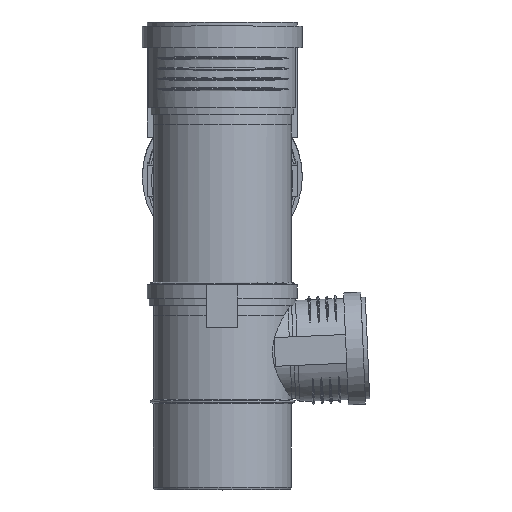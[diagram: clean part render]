
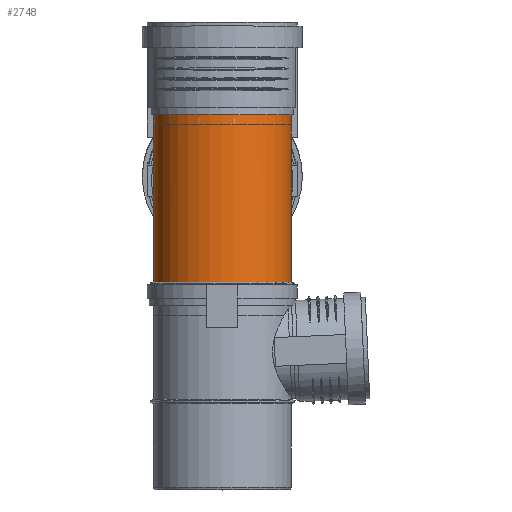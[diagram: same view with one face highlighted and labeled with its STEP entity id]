
A CAD part, top view. The second image highlights one B-rep face of the part: STEP entity #2748.
In plain terms, the highlighted cylindrical face has radius 55.1 mm (diameter 110.2 mm), a full revolution.
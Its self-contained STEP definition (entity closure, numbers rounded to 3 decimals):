
#340=B_SPLINE_CURVE_WITH_KNOTS($,3,(#5485,#5486,#5487,#5488,#5489,#5490,
#5491,#5492,#5493,#5494,#5495,#5496,#5497,#5498,#5499,#5500,#5501,#5502,
#5503,#5504,#5505,#5506,#5507,#5508,#5509,#5510,#5511,#5512,#5513,#5514,
#5515,#5516,#5517,#5518,#5519,#5520,#5521,#5522,#5523,#5524,#5525,#5526,
#5527,#5528),.UNSPECIFIED.,.F.,.F.,(4,2,2,2,2,2,2,2,2,2,2,2,2,2,2,2,2,2,
2,2,2,4),(0.,1.202,2.458,3.4,4.559,
6.655,10.232,13.771,16.647,18.787,
20.115,21.302,22.828,25.256,27.754,
31.699,35.476,37.517,38.799,40.055,
41.233,42.481),.UNSPECIFIED.);
#534=CYLINDRICAL_SURFACE($,#3016,55.1);
#614=FACE_BOUND($,#951,.T.);
#741=FACE_OUTER_BOUND($,#950,.T.);
#950=EDGE_LOOP($,(#2204,#2205));
#951=EDGE_LOOP($,(#2206));
#1124=CIRCLE($,#3017,55.1);
#1125=CIRCLE($,#3018,55.1);
#1329=VERTEX_POINT($,#5461);
#1330=VERTEX_POINT($,#5462);
#1332=VERTEX_POINT($,#5534);
#1644=EDGE_CURVE($,#1330,#1329,#340,.T.);
#1646=EDGE_CURVE($,#1329,#1330,#1124,.T.);
#1647=EDGE_CURVE($,#1332,#1332,#1125,.T.);
#2204=ORIENTED_EDGE($,*,*,#1644,.T.);
#2205=ORIENTED_EDGE($,*,*,#1646,.T.);
#2206=ORIENTED_EDGE($,*,*,#1647,.F.);
#2748=ADVANCED_FACE($,(#741,#614),#534,.T.);
#3016=AXIS2_PLACEMENT_3D($,#5532,#3602,#3603);
#3017=AXIS2_PLACEMENT_3D($,#5533,#3604,#3605);
#3018=AXIS2_PLACEMENT_3D($,#5535,#3606,#3607);
#3602=DIRECTION('center_axis',(0.,1.,0.));
#3603=DIRECTION('ref_axis',(-1.,0.,0.));
#3604=DIRECTION('center_axis',(0.,1.,0.));
#3605=DIRECTION('ref_axis',(-1.,0.,0.));
#3606=DIRECTION('center_axis',(0.,1.,0.));
#3607=DIRECTION('ref_axis',(-1.,0.,0.));
#5461=CARTESIAN_POINT('',(34.721,71.6,-42.784));
#5462=CARTESIAN_POINT('',(34.721,71.6,42.784));
#5485=CARTESIAN_POINT('Ctrl Pts',(34.721,71.6,42.784));
#5486=CARTESIAN_POINT('Ctrl Pts',(31.767,72.854,45.181));
#5487=CARTESIAN_POINT('Ctrl Pts',(28.835,74.32,47.052));
#5488=CARTESIAN_POINT('Ctrl Pts',(23.337,77.963,50.016));
#5489=CARTESIAN_POINT('Ctrl Pts',(20.698,80.231,51.115));
#5490=CARTESIAN_POINT('Ctrl Pts',(16.952,85.337,52.455));
#5491=CARTESIAN_POINT('Ctrl Pts',(15.741,87.74,52.811));
#5492=CARTESIAN_POINT('Ctrl Pts',(13.818,93.595,53.351));
#5493=CARTESIAN_POINT('Ctrl Pts',(13.329,97.032,53.464));
#5494=CARTESIAN_POINT('Ctrl Pts',(12.948,106.582,53.558));
#5495=CARTESIAN_POINT('Ctrl Pts',(13.835,113.182,53.351));
#5496=CARTESIAN_POINT('Ctrl Pts',(17.236,129.435,52.382));
#5497=CARTESIAN_POINT('Ctrl Pts',(20.995,140.51,51.201));
#5498=CARTESIAN_POINT('Ctrl Pts',(30.042,161.737,46.468));
#5499=CARTESIAN_POINT('Ctrl Pts',(35.016,171.274,43.063));
#5500=CARTESIAN_POINT('Ctrl Pts',(43.414,185.979,34.361));
#5501=CARTESIAN_POINT('Ctrl Pts',(46.697,191.202,29.795));
#5502=CARTESIAN_POINT('Ctrl Pts',(51.144,198.079,20.933));
#5503=CARTESIAN_POINT('Ctrl Pts',(52.757,200.478,16.633));
#5504=CARTESIAN_POINT('Ctrl Pts',(54.463,202.99,8.888));
#5505=CARTESIAN_POINT('Ctrl Pts',(54.886,203.604,5.8));
#5506=CARTESIAN_POINT('Ctrl Pts',(55.173,204.021,-0.209));
#5507=CARTESIAN_POINT('Ctrl Pts',(55.088,203.899,-3.043));
#5508=CARTESIAN_POINT('Ctrl Pts',(54.406,202.905,-9.435));
#5509=CARTESIAN_POINT('Ctrl Pts',(53.683,201.849,-12.861));
#5510=CARTESIAN_POINT('Ctrl Pts',(51.144,198.067,-21.187));
#5511=CARTESIAN_POINT('Ctrl Pts',(48.848,194.608,-26.032));
#5512=CARTESIAN_POINT('Ctrl Pts',(42.941,185.109,-34.95));
#5513=CARTESIAN_POINT('Ctrl Pts',(39.63,179.503,-38.519));
#5514=CARTESIAN_POINT('Ctrl Pts',(31.364,164.271,-45.802));
#5515=CARTESIAN_POINT('Ctrl Pts',(26.368,153.842,-48.585));
#5516=CARTESIAN_POINT('Ctrl Pts',(18.407,132.909,-52.109));
#5517=CARTESIAN_POINT('Ctrl Pts',(15.384,122.481,-52.928));
#5518=CARTESIAN_POINT('Ctrl Pts',(13.24,107.973,-53.491));
#5519=CARTESIAN_POINT('Ctrl Pts',(12.861,102.471,-53.581));
#5520=CARTESIAN_POINT('Ctrl Pts',(13.771,94.102,-53.353));
#5521=CARTESIAN_POINT('Ctrl Pts',(14.502,90.919,-53.174));
#5522=CARTESIAN_POINT('Ctrl Pts',(17.064,85.052,-52.408));
#5523=CARTESIAN_POINT('Ctrl Pts',(18.786,82.551,-51.85));
#5524=CARTESIAN_POINT('Ctrl Pts',(22.932,78.312,-50.148));
#5525=CARTESIAN_POINT('Ctrl Pts',(25.181,76.654,-49.081));
#5526=CARTESIAN_POINT('Ctrl Pts',(29.904,73.779,-46.364));
#5527=CARTESIAN_POINT('Ctrl Pts',(32.367,72.599,-44.695));
#5528=CARTESIAN_POINT('Ctrl Pts',(34.721,71.6,-42.784));
#5532=CARTESIAN_POINT('Origin',(0.,141.69,0.));
#5533=CARTESIAN_POINT('Origin',(0.,71.6,0.));
#5534=CARTESIAN_POINT('',(-55.1,211.78,0.));
#5535=CARTESIAN_POINT('Origin',(0.,211.78,0.));
